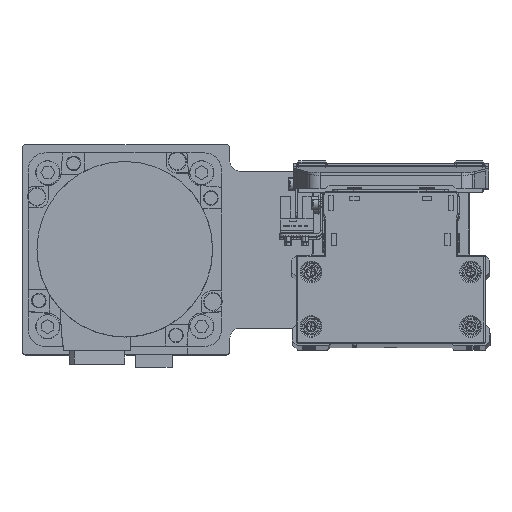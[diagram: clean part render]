
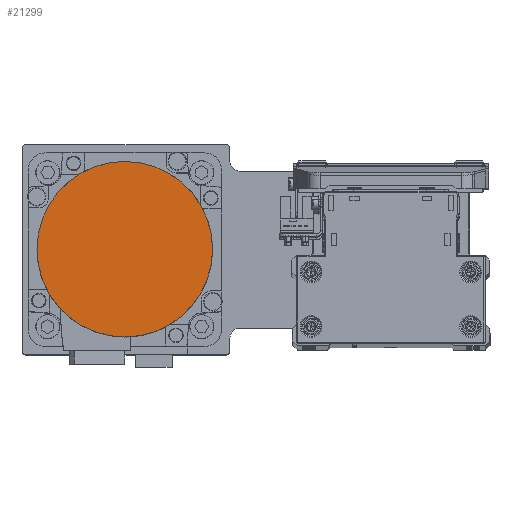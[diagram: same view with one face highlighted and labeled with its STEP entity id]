
A CAD part, top view. The second image highlights one B-rep face of the part: STEP entity #21299.
In plain terms, the highlighted planar face has unit normal (0, 0, 1) as drawn and (0, 0, -1) by its records, which use the part's own axes.
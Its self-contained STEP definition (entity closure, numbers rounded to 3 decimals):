
#430 = AXIS2_PLACEMENT_3D ( 'NONE', #32929, #5216, #17555 ) ;
#1354 = EDGE_LOOP ( 'NONE', ( #8799, #37228 ) ) ;
#2409 = FACE_OUTER_BOUND ( 'NONE', #1354, .T. ) ;
#5216 = DIRECTION ( 'NONE',  ( 0., 0., 1. ) ) ;
#8785 = CIRCLE ( 'NONE', #31398, 36.3 ) ;
#8799 = ORIENTED_EDGE ( 'NONE', *, *, #21271, .F. ) ;
#9511 = DIRECTION ( 'NONE',  ( 0., 0., 1. ) ) ;
#11693 = DIRECTION ( 'NONE',  ( 1., 0., 0. ) ) ;
#12346 = CARTESIAN_POINT ( 'NONE',  ( 0., 36.3, -122.2 ) ) ;
#14733 = PLANE ( 'NONE',  #15918 ) ;
#15918 = AXIS2_PLACEMENT_3D ( 'NONE', #27056, #39394, #11693 ) ;
#17555 = DIRECTION ( 'NONE',  ( 0., 1., 0. ) ) ;
#17848 = CIRCLE ( 'NONE', #430, 36.3 ) ;
#21023 = EDGE_CURVE ( 'NONE', #26372, #29681, #8785, .T. ) ;
#21271 = EDGE_CURVE ( 'NONE', #29681, #26372, #17848, .T. ) ;
#21299 = ADVANCED_FACE ( 'NONE', ( #2409 ), #14733, .F. ) ;
#21831 = DIRECTION ( 'NONE',  ( 0., -1., 0. ) ) ;
#26372 = VERTEX_POINT ( 'NONE', #27924 ) ;
#27056 = CARTESIAN_POINT ( 'NONE',  ( 0., 0., -122.2 ) ) ;
#27924 = CARTESIAN_POINT ( 'NONE',  ( 0., -36.3, -122.2 ) ) ;
#29681 = VERTEX_POINT ( 'NONE', #12346 ) ;
#31398 = AXIS2_PLACEMENT_3D ( 'NONE', #37234, #9511, #21831 ) ;
#32929 = CARTESIAN_POINT ( 'NONE',  ( 0., 0., -122.2 ) ) ;
#37228 = ORIENTED_EDGE ( 'NONE', *, *, #21023, .F. ) ;
#37234 = CARTESIAN_POINT ( 'NONE',  ( 0., 0., -122.2 ) ) ;
#39394 = DIRECTION ( 'NONE',  ( 0., 0., 1. ) ) ;
